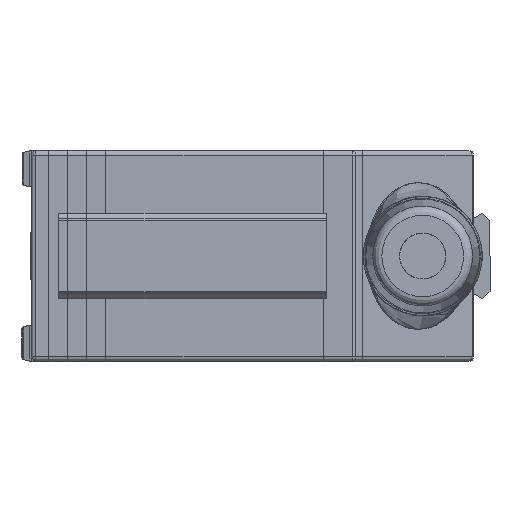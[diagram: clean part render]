
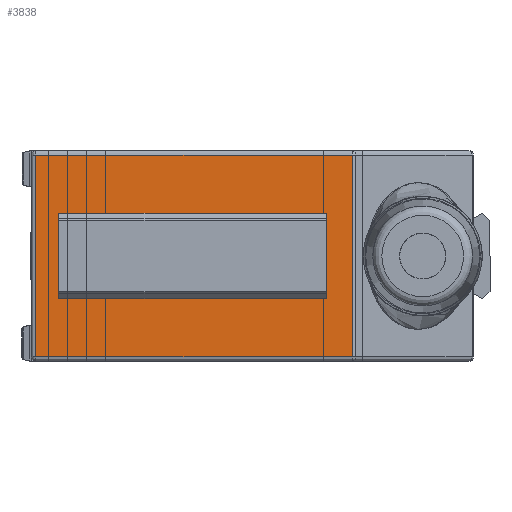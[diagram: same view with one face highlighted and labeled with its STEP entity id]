
A CAD part, left-side view. The second image highlights one B-rep face of the part: STEP entity #3838.
In plain terms, the highlighted planar face has unit normal (-1, 0, 0).
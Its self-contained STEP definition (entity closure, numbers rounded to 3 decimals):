
#164=FACE_BOUND('',#1277,.T.);
#322=LINE('',#6021,#661);
#324=LINE('',#6025,#663);
#326=LINE('',#6029,#665);
#328=LINE('',#6032,#667);
#329=LINE('',#6038,#668);
#380=LINE('',#6189,#719);
#441=LINE('',#6328,#780);
#442=LINE('',#6329,#781);
#661=VECTOR('',#4593,10.);
#663=VECTOR('',#4597,10.);
#665=VECTOR('',#4601,10.);
#667=VECTOR('',#4605,10.);
#668=VECTOR('',#4610,10.);
#719=VECTOR('',#4767,10.);
#780=VECTOR('',#4902,10.);
#781=VECTOR('',#4903,10.);
#1053=FACE_OUTER_BOUND('',#1276,.T.);
#1276=EDGE_LOOP('',(#2905,#2906,#2907,#2908));
#1277=EDGE_LOOP('',(#2909,#2910,#2911,#2912));
#1595=VERTEX_POINT('',#6018);
#1596=VERTEX_POINT('',#6020);
#1597=VERTEX_POINT('',#6024);
#1598=VERTEX_POINT('',#6028);
#1599=VERTEX_POINT('',#6034);
#1601=VERTEX_POINT('',#6037);
#1634=VERTEX_POINT('',#6148);
#1648=VERTEX_POINT('',#6187);
#1980=EDGE_CURVE('',#1595,#1596,#322,.T.);
#1982=EDGE_CURVE('',#1597,#1596,#324,.T.);
#1984=EDGE_CURVE('',#1598,#1597,#326,.T.);
#1986=EDGE_CURVE('',#1595,#1598,#328,.T.);
#1988=EDGE_CURVE('',#1599,#1601,#329,.T.);
#2063=EDGE_CURVE('',#1648,#1634,#380,.T.);
#2130=EDGE_CURVE('',#1634,#1599,#441,.T.);
#2131=EDGE_CURVE('',#1601,#1648,#442,.T.);
#2905=ORIENTED_EDGE('',*,*,#2130,.F.);
#2906=ORIENTED_EDGE('',*,*,#2063,.F.);
#2907=ORIENTED_EDGE('',*,*,#2131,.F.);
#2908=ORIENTED_EDGE('',*,*,#1988,.F.);
#2909=ORIENTED_EDGE('',*,*,#1986,.T.);
#2910=ORIENTED_EDGE('',*,*,#1984,.T.);
#2911=ORIENTED_EDGE('',*,*,#1982,.T.);
#2912=ORIENTED_EDGE('',*,*,#1980,.F.);
#3441=PLANE('',#4135);
#3838=ADVANCED_FACE('',(#1053,#164),#3441,.T.);
#4135=AXIS2_PLACEMENT_3D('',#6327,#4900,#4901);
#4593=DIRECTION('',(0.,0.,-1.));
#4597=DIRECTION('',(0.,1.,0.));
#4601=DIRECTION('',(0.,0.,-1.));
#4605=DIRECTION('',(0.,-1.,0.));
#4610=DIRECTION('',(0.,0.,-1.));
#4767=DIRECTION('',(0.,0.,1.));
#4900=DIRECTION('center_axis',(-1.,0.,0.));
#4901=DIRECTION('ref_axis',(0.,0.,1.));
#4902=DIRECTION('',(0.,-1.,0.));
#4903=DIRECTION('',(0.,1.,0.));
#6018=CARTESIAN_POINT('',(-42.3,45.2,4.1));
#6020=CARTESIAN_POINT('',(-42.3,45.2,-4.1));
#6021=CARTESIAN_POINT('',(-42.3,45.2,11.5));
#6024=CARTESIAN_POINT('',(-42.3,16.,-4.1));
#6025=CARTESIAN_POINT('',(-42.3,48.2,-4.1));
#6028=CARTESIAN_POINT('',(-42.3,16.,4.1));
#6029=CARTESIAN_POINT('',(-42.3,16.,5.75));
#6032=CARTESIAN_POINT('',(-42.3,48.2,4.1));
#6034=CARTESIAN_POINT('',(-42.3,13.207,11.));
#6037=CARTESIAN_POINT('',(-42.3,13.207,-11.));
#6038=CARTESIAN_POINT('',(-42.3,13.207,11.5));
#6148=CARTESIAN_POINT('',(-42.3,47.7,11.));
#6187=CARTESIAN_POINT('',(-42.3,47.7,-11.));
#6189=CARTESIAN_POINT('',(-42.3,47.7,11.5));
#6327=CARTESIAN_POINT('Origin',(-42.3,48.2,11.5));
#6328=CARTESIAN_POINT('',(-42.3,36.78,11.));
#6329=CARTESIAN_POINT('',(-42.3,36.78,-11.));
